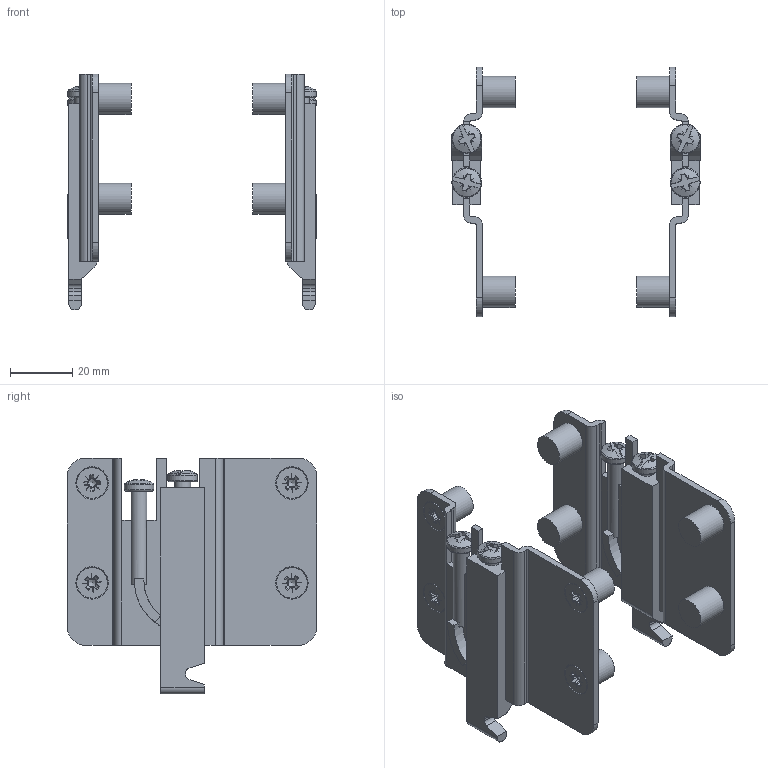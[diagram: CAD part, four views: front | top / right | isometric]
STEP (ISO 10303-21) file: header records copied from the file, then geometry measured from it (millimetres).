
FILE_DESCRIPTION(('STEP AP203'),'2;1');
FILE_NAME('ART-80702Z1INDXSX_1.stp','2018-03-09T17:24:16',(''),(''),'2009.3.110','THINKDESIGN','');
FILE_SCHEMA(('CONFIG_CONTROL_DESIGN'));
Length unit declared in the file: millimetre
Bounding box: 79.6 x 80 x 75.6 mm (x, y, z)
Volume: 39703.6 mm3; surface area: 28044.9 mm2
Topology: 2 solids, 2 shells, 588 faces, 1672 edges, 1110 vertices
Faces by surface type: plane 352, bspline 168, cylinder 68
Full cylindrical faces by diameter (mm): 5.1 x4, 9.5 x4, 9.8 x8, 10 x8
Entity records: 23099 total; most frequent: CARTESIAN_POINT 8726, ORIENTED_EDGE 3328, DIRECTION 2524, EDGE_CURVE 1664, VERTEX_POINT 1110, AXIS2_PLACEMENT_3D 876, VECTOR 772, LINE 772
